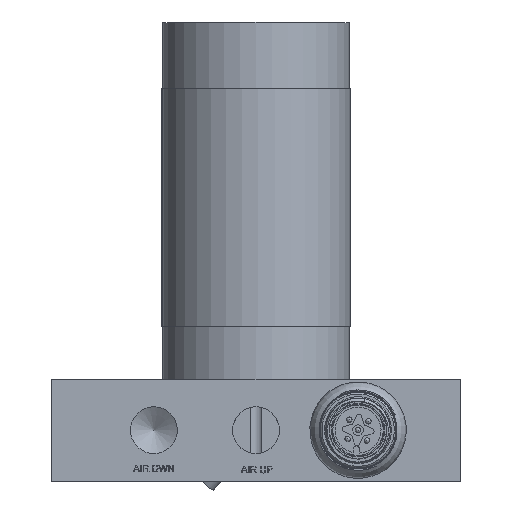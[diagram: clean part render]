
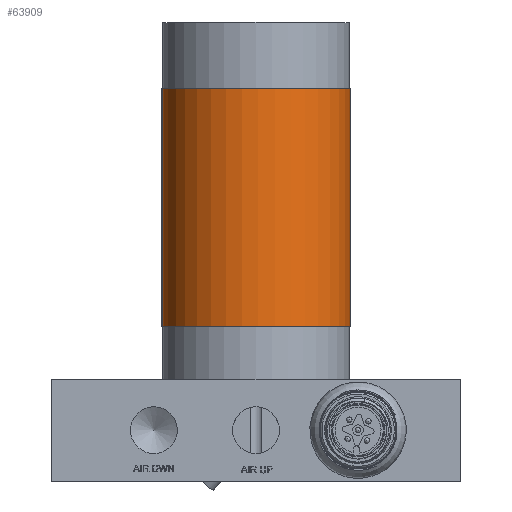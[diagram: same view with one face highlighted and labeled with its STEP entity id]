
A CAD part, front view. The second image highlights one B-rep face of the part: STEP entity #63909.
In plain terms, the highlighted cylindrical face has radius 17.59 mm (diameter 35.179 mm), a full revolution.
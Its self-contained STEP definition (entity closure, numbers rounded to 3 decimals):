
#2957=CYLINDRICAL_SURFACE('',#68049,17.59);
#4923=FACE_OUTER_BOUND('',#9045,.T.);
#9045=EDGE_LOOP('',(#43140,#43141,#43142,#43143));
#15821=CIRCLE('',#68050,17.59);
#15822=CIRCLE('',#68051,17.59);
#21088=LINE('',#94007,#23227);
#23227=VECTOR('',#75780,17.59);
#25414=VERTEX_POINT('',#94004);
#25415=VERTEX_POINT('',#94006);
#31791=EDGE_CURVE('',#25414,#25414,#15821,.T.);
#31792=EDGE_CURVE('',#25414,#25415,#21088,.T.);
#31793=EDGE_CURVE('',#25415,#25415,#15822,.T.);
#43140=ORIENTED_EDGE('',*,*,#31791,.T.);
#43141=ORIENTED_EDGE('',*,*,#31792,.T.);
#43142=ORIENTED_EDGE('',*,*,#31793,.F.);
#43143=ORIENTED_EDGE('',*,*,#31792,.F.);
#63909=ADVANCED_FACE('',(#4923),#2957,.T.);
#68049=AXIS2_PLACEMENT_3D('',#94003,#75776,#75777);
#68050=AXIS2_PLACEMENT_3D('',#94005,#75778,#75779);
#68051=AXIS2_PLACEMENT_3D('',#94008,#75781,#75782);
#75776=DIRECTION('center_axis',(0.,0.,
1.));
#75777=DIRECTION('ref_axis',(-1.,-0.026,0.));
#75778=DIRECTION('center_axis',(0.,0.,
-1.));
#75779=DIRECTION('ref_axis',(-1.,-0.026,0.));
#75780=DIRECTION('',(0.,0.,-1.));
#75781=DIRECTION('center_axis',(0.,0.,
-1.));
#75782=DIRECTION('ref_axis',(-1.,-0.026,0.));
#94003=CARTESIAN_POINT('Origin',(0.,0.,
28.892));
#94004=CARTESIAN_POINT('',(17.583,0.46,73.342));
#94005=CARTESIAN_POINT('Origin',(0.,0.,
73.342));
#94006=CARTESIAN_POINT('',(17.583,0.46,28.892));
#94007=CARTESIAN_POINT('',(17.583,0.46,28.892));
#94008=CARTESIAN_POINT('Origin',(0.,0.,
28.892));
